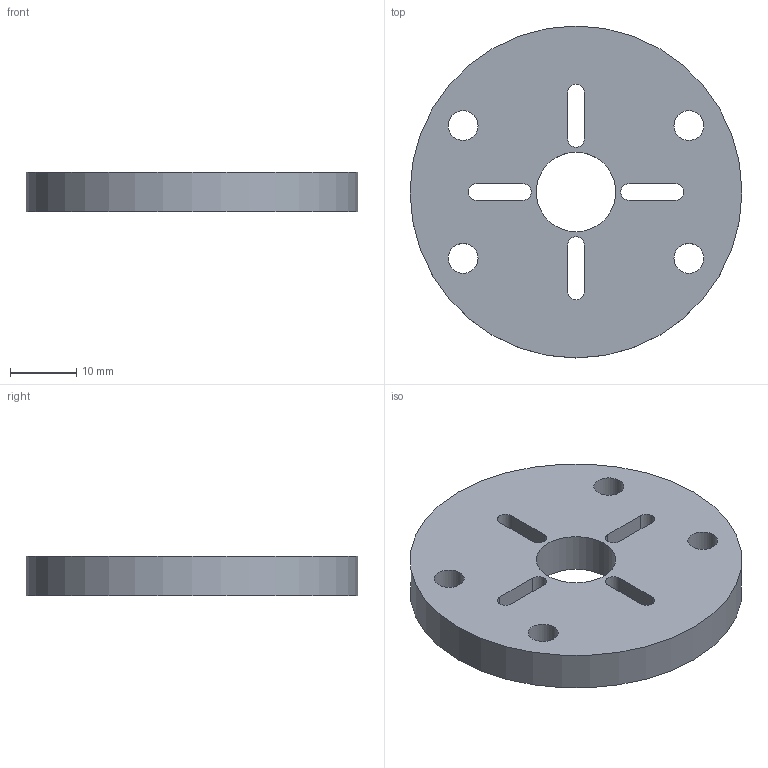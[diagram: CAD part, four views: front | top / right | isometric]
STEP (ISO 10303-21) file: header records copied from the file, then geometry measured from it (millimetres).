
FILE_DESCRIPTION(('Open CASCADE Model'),'2;1');
FILE_NAME('Open CASCADE Shape Model','2026-10-26T17:58:52',('Author'),( 'Open CASCADE'),'Open CASCADE STEP processor 7.9','Open CASCADE 7.9' ,'Unknown');
FILE_SCHEMA(('AUTOMOTIVE_DESIGN { 1 0 10303 214 1 1 1 1 }'));
Length unit declared in the file: millimetre
Products named in the file (1): Open CASCADE STEP translator 7.9 16
Bounding box: 50 x 50 x 6 mm (x, y, z)
Volume: 10182.9 mm3; surface area: 5426.8 mm2
Topology: 1 solids, 1 shells, 24 faces, 66 edges, 44 vertices
Faces by surface type: cylinder 14, plane 10
Full cylindrical faces by diameter (mm): 4.5 x4, 12 x1, 50 x1
Entity records: 1698 total; most frequent: CARTESIAN_POINT 395, DIRECTION 228, ORIENTED_EDGE 132, PCURVE 132, DEFINITIONAL_REPRESENTATION 132, LINE 110, VECTOR 110, EDGE_CURVE 66
